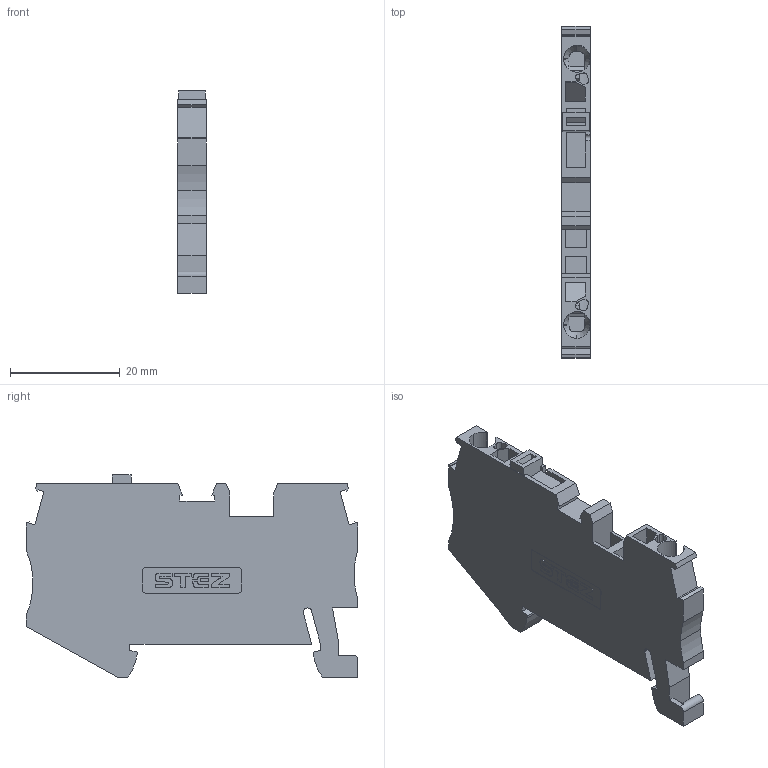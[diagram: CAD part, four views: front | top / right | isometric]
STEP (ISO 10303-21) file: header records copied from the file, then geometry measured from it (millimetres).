
FILE_DESCRIPTION(('TFLEX Exchange Step'),'2;1');
FILE_NAME('10200002_КНЗ_2,5-2-РЗМ.stp', '2024-03-07T14:30:04+03:00',('apanin'),('Unknown organisation'),'TFLEX Exchange 2023.2','T-FLEX CAD','Unknown authorisation');
FILE_SCHEMA( ('AUTOMOTIVE_DESIGN { 1 0 10303 214 1 1 1 1 }') );
Length unit declared in the file: millimetre
Products named in the file (1): Тело_1 - ST_2.5_MT-select:1
Bounding box: 5.15 x 60.4 x 36.85 mm (x, y, z)
Volume: 7702.3 mm3; surface area: 5782.1 mm2
Topology: 1 solids, 1 shells, 415 faces, 1187 edges, 786 vertices
Faces by surface type: plane 203, cylinder 200, cone 12
Entity records: 14058 total; most frequent: CARTESIAN_POINT 2868, ORIENTED_EDGE 2374, DIRECTION 2351, EDGE_CURVE 1187, AXIS2_PLACEMENT_3D 803, VERTEX_POINT 786, VECTOR 745, LINE 745
